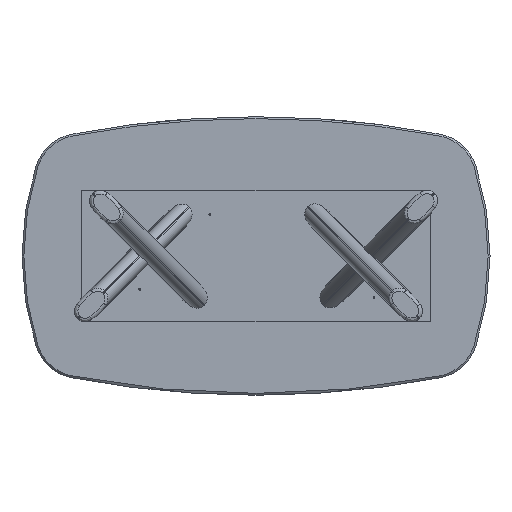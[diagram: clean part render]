
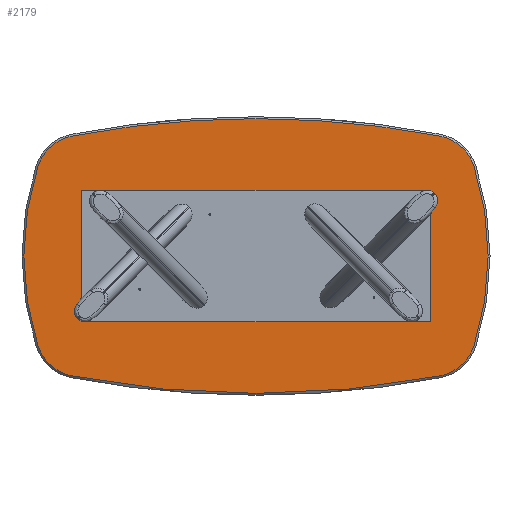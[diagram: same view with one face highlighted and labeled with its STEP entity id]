
A CAD part, front view. The second image highlights one B-rep face of the part: STEP entity #2179.
In plain terms, the highlighted planar face has unit normal (0, -1, 0).
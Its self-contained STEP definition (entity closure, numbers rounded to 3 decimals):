
#4 = ORIENTED_EDGE ( 'NONE', *, *, #1364, .T. ) ;
#139 = EDGE_CURVE ( 'NONE', #1571, #2493, #4258, .T. ) ;
#289 = CIRCLE ( 'NONE', #1666, 4192. ) ;
#372 = VERTEX_POINT ( 'NONE', #3331 ) ;
#524 = DIRECTION ( 'NONE',  ( 0., 0., 1. ) ) ;
#546 = DIRECTION ( 'NONE',  ( 0., 0., 1. ) ) ;
#594 = CIRCLE ( 'NONE', #1738, 192. ) ;
#612 = VERTEX_POINT ( 'NONE', #3586 ) ;
#732 = VERTEX_POINT ( 'NONE', #1586 ) ;
#922 = CIRCLE ( 'NONE', #3519, 192. ) ;
#1200 = ORIENTED_EDGE ( 'NONE', *, *, #2841, .T. ) ;
#1246 = DIRECTION ( 'NONE',  ( 0., 0., 1. ) ) ;
#1296 = ORIENTED_EDGE ( 'NONE', *, *, #139, .T. ) ;
#1364 = EDGE_CURVE ( 'NONE', #3574, #4024, #3062, .T. ) ;
#1378 = DIRECTION ( 'NONE',  ( 0., 0., 1. ) ) ;
#1419 = CARTESIAN_POINT ( 'NONE',  ( 932., 50., 382.936 ) ) ;
#1437 = AXIS2_PLACEMENT_3D ( 'NONE', #1709, #3834, #4249 ) ;
#1531 = DIRECTION ( 'NONE',  ( 0., -1., 0. ) ) ;
#1541 = AXIS2_PLACEMENT_3D ( 'NONE', #4026, #4712, #4399 ) ;
#1571 = VERTEX_POINT ( 'NONE', #3121 ) ;
#1586 = CARTESIAN_POINT ( 'NONE',  ( -785.163, 50., 512.813 ) ) ;
#1600 = ORIENTED_EDGE ( 'NONE', *, *, #4483, .T. ) ;
#1630 = DIRECTION ( 'NONE',  ( 0., -1., 0. ) ) ;
#1660 = ORIENTED_EDGE ( 'NONE', *, *, #4027, .T. ) ;
#1666 = AXIS2_PLACEMENT_3D ( 'NONE', #3690, #3332, #2209 ) ;
#1709 = CARTESIAN_POINT ( 'NONE',  ( 0., 50., -3605. ) ) ;
#1738 = AXIS2_PLACEMENT_3D ( 'NONE', #3798, #1630, #524 ) ;
#1766 = CIRCLE ( 'NONE', #2372, 1252. ) ;
#1956 = CARTESIAN_POINT ( 'NONE',  ( 932., 50., -382.936 ) ) ;
#1968 = DIRECTION ( 'NONE',  ( 0., -1., 0. ) ) ;
#2116 = DIRECTION ( 'NONE',  ( 0., -1., 0. ) ) ;
#2139 = DIRECTION ( 'NONE',  ( 0., 0., 1. ) ) ;
#2146 = CARTESIAN_POINT ( 'NONE',  ( 749.201, 50., 324.211 ) ) ;
#2179 = ADVANCED_FACE ( 'NONE', ( #4000 ), #3312, .F. ) ;
#2209 = DIRECTION ( 'NONE',  ( 0., 0., 1. ) ) ;
#2361 = CARTESIAN_POINT ( 'NONE',  ( 785.163, 50., 512.813 ) ) ;
#2372 = AXIS2_PLACEMENT_3D ( 'NONE', #2765, #3818, #546 ) ;
#2493 = VERTEX_POINT ( 'NONE', #3779 ) ;
#2577 = DIRECTION ( 'NONE',  ( 0., 0., 1. ) ) ;
#2590 = AXIS2_PLACEMENT_3D ( 'NONE', #3764, #1968, #1246 ) ;
#2765 = CARTESIAN_POINT ( 'NONE',  ( -260., 50., 0. ) ) ;
#2805 = AXIS2_PLACEMENT_3D ( 'NONE', #3254, #2116, #3566 ) ;
#2841 = EDGE_CURVE ( 'NONE', #732, #1571, #922, .T. ) ;
#2981 = EDGE_CURVE ( 'NONE', #3458, #3574, #1766, .T. ) ;
#3062 = CIRCLE ( 'NONE', #3364, 192. ) ;
#3121 = CARTESIAN_POINT ( 'NONE',  ( -932., 50., 382.936 ) ) ;
#3146 = ORIENTED_EDGE ( 'NONE', *, *, #2981, .T. ) ;
#3163 = DIRECTION ( 'NONE',  ( 0., -1., 0. ) ) ;
#3213 = CIRCLE ( 'NONE', #3978, 192. ) ;
#3254 = CARTESIAN_POINT ( 'NONE',  ( 0., 50., -3605. ) ) ;
#3312 = PLANE ( 'NONE',  #1541 ) ;
#3331 = CARTESIAN_POINT ( 'NONE',  ( 0., 50., 587. ) ) ;
#3332 = DIRECTION ( 'NONE',  ( 0., -1., 0. ) ) ;
#3364 = AXIS2_PLACEMENT_3D ( 'NONE', #2146, #3601, #1378 ) ;
#3371 = EDGE_LOOP ( 'NONE', ( #1200, #1296, #1660, #4022, #3842, #3146, #4, #1600, #3613 ) ) ;
#3424 = CIRCLE ( 'NONE', #1437, 4192. ) ;
#3458 = VERTEX_POINT ( 'NONE', #1956 ) ;
#3513 = EDGE_CURVE ( 'NONE', #3785, #3458, #3213, .T. ) ;
#3519 = AXIS2_PLACEMENT_3D ( 'NONE', #3753, #1531, #2577 ) ;
#3566 = DIRECTION ( 'NONE',  ( 0., 0., 1. ) ) ;
#3574 = VERTEX_POINT ( 'NONE', #1419 ) ;
#3576 = EDGE_CURVE ( 'NONE', #372, #732, #4397, .T. ) ;
#3586 = CARTESIAN_POINT ( 'NONE',  ( -785.163, 50., -512.813 ) ) ;
#3601 = DIRECTION ( 'NONE',  ( 0., -1., 0. ) ) ;
#3613 = ORIENTED_EDGE ( 'NONE', *, *, #3576, .T. ) ;
#3690 = CARTESIAN_POINT ( 'NONE',  ( 0., 50., 3605. ) ) ;
#3724 = EDGE_CURVE ( 'NONE', #612, #3785, #289, .T. ) ;
#3753 = CARTESIAN_POINT ( 'NONE',  ( -749.201, 50., 324.211 ) ) ;
#3764 = CARTESIAN_POINT ( 'NONE',  ( 260., 50., 0. ) ) ;
#3779 = CARTESIAN_POINT ( 'NONE',  ( -932., 50., -382.936 ) ) ;
#3785 = VERTEX_POINT ( 'NONE', #3895 ) ;
#3798 = CARTESIAN_POINT ( 'NONE',  ( -749.201, 50., -324.211 ) ) ;
#3818 = DIRECTION ( 'NONE',  ( 0., -1., 0. ) ) ;
#3834 = DIRECTION ( 'NONE',  ( 0., -1., 0. ) ) ;
#3842 = ORIENTED_EDGE ( 'NONE', *, *, #3513, .T. ) ;
#3895 = CARTESIAN_POINT ( 'NONE',  ( 785.163, 50., -512.813 ) ) ;
#3978 = AXIS2_PLACEMENT_3D ( 'NONE', #4704, #3163, #2139 ) ;
#4000 = FACE_OUTER_BOUND ( 'NONE', #3371, .T. ) ;
#4022 = ORIENTED_EDGE ( 'NONE', *, *, #3724, .T. ) ;
#4024 = VERTEX_POINT ( 'NONE', #2361 ) ;
#4026 = CARTESIAN_POINT ( 'NONE',  ( -244.601, 50., -162.105 ) ) ;
#4027 = EDGE_CURVE ( 'NONE', #2493, #612, #594, .T. ) ;
#4249 = DIRECTION ( 'NONE',  ( 0., 0., 1. ) ) ;
#4258 = CIRCLE ( 'NONE', #2590, 1252. ) ;
#4397 = CIRCLE ( 'NONE', #2805, 4192. ) ;
#4399 = DIRECTION ( 'NONE',  ( 0., 0., 1. ) ) ;
#4483 = EDGE_CURVE ( 'NONE', #4024, #372, #3424, .T. ) ;
#4704 = CARTESIAN_POINT ( 'NONE',  ( 749.201, 50., -324.211 ) ) ;
#4712 = DIRECTION ( 'NONE',  ( 0., 1., 0. ) ) ;
